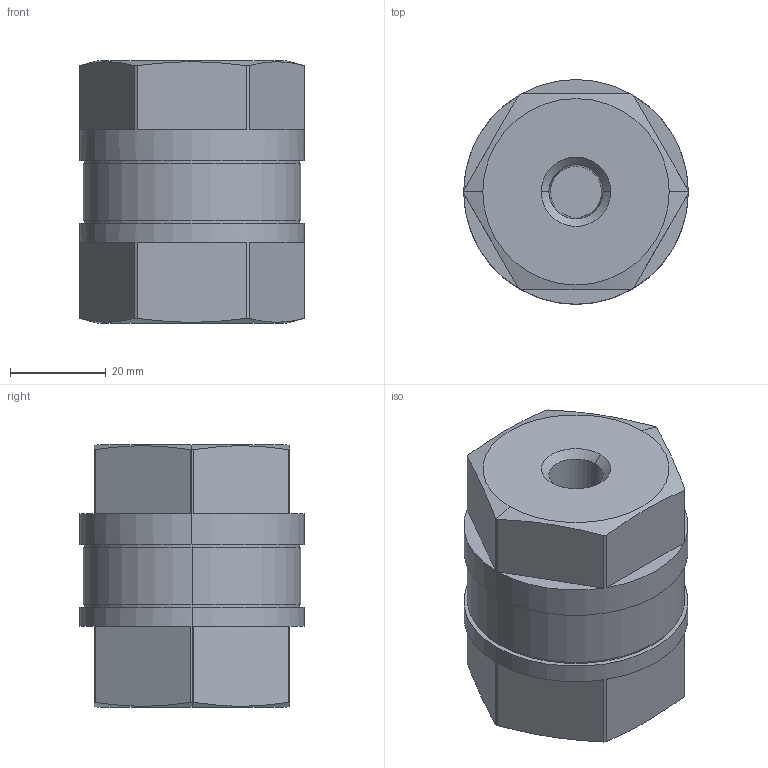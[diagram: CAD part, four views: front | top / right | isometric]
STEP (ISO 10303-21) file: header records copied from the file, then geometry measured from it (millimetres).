
FILE_DESCRIPTION( (''), '2;1');
FILE_NAME ('PC1276.4340.8A_13270.stp','2023-07-04T16:30:36',(''),(''),'spGate 19.8.4 (****-****-****-****)','','');
FILE_SCHEMA (('AUTOMOTIVE_DESIGN'));
Length unit declared in the file: millimetre
Bounding box: 47 x 47 x 55 mm (x, y, z)
Volume: 80608.9 mm3; surface area: 13450 mm2
Topology: 1 solids, 1 shells, 63 faces, 148 edges, 94 vertices
Faces by surface type: plane 33, bspline 16, cylinder 14
Entity records: 3199 total; most frequent: CARTESIAN_POINT 613, ORIENTED_EDGE 296, DIRECTION 270, COLOUR_RGB 212, PRESENTATION_STYLE_ASSIGNMENT 212, STYLED_ITEM 212, EDGE_CURVE 148, DRAUGHTING_PRE_DEFINED_CURVE_FONT 148
